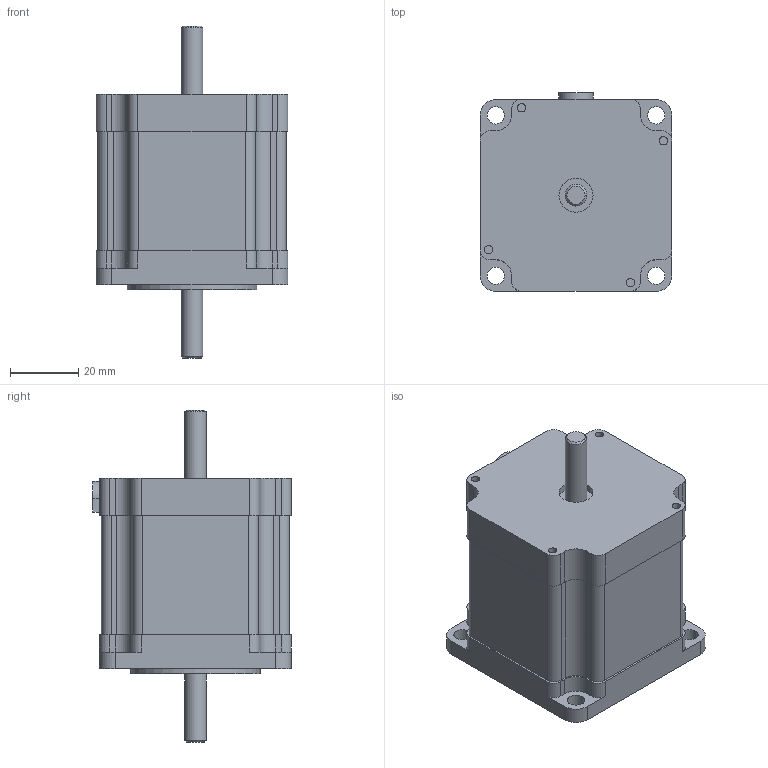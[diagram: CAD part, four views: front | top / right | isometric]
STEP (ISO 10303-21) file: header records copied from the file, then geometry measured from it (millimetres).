
FILE_DESCRIPTION(('STEP AP214'), '1');
FILE_NAME('PL57HD56-d6- Øàãîâûé ýëåêòðîäâèãàòåëü', '', ('UNSPECIFIED'), ('UNSPECIFIED'), 'ASCON STEP Converter 1.3', 'ASCON Math Kernel', '');
FILE_SCHEMA(('AUTOMOTIVE_DESIGN { 1 0 10303 214 3 1 1}'));
Length unit declared in the file: millimetre
Products named in the file (1): PL57H56-2.6-4
Bounding box: 56.4 x 58.4 x 97.6 mm (x, y, z)
Volume: 159423.7 mm3; surface area: 19469.1 mm2
Topology: 1 solids, 1 shells, 656 faces, 1813 edges, 1208 vertices
Faces by surface type: plane 304, cylinder 276, extrusion 74, cone 2
Full cylindrical faces by diameter (mm): 2.459 x4, 4 x1, 5.1 x4, 6.35 x2, 10 x1, 38.1 x1
Entity records: 26573 total; most frequent: CARTESIAN_POINT 4284, ORIENTED_EDGE 3596, DIRECTION 3444, EDGE_CURVE 1798, VERTEX_POINT 1208, VECTOR 1170, AXIS2_PLACEMENT_3D 1137, LINE 1096
